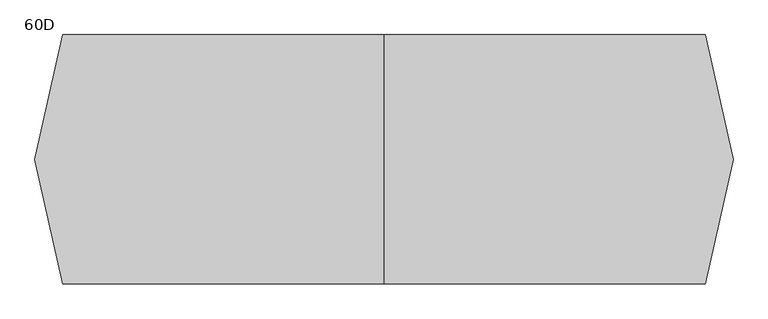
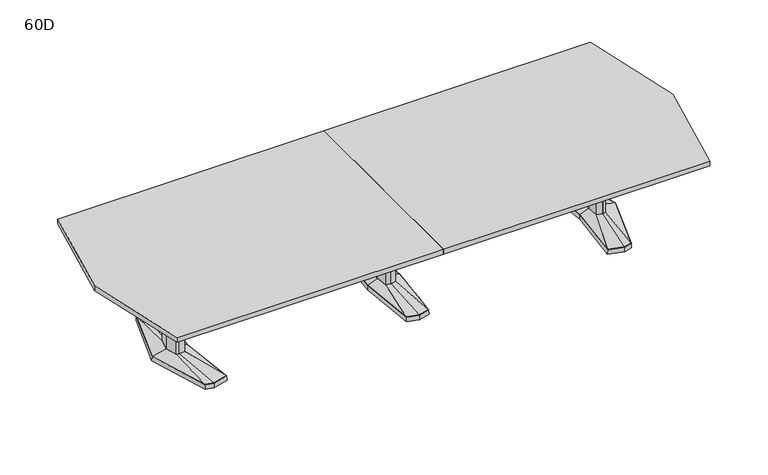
"""IFC4 building model written with IfcOpenShell, lengths in millimetres: furniture geometry, Coalesse_AM_Table_Conference_ETable2_Faceted_14ft_Aluminium Base : 60D."""

import ifcopenshell
import ifcopenshell.guid

model = None  # the IFC model being written
_history = None  # IfcOwnerHistory: only IFC2X3 demands one
_inside = {}  # id of a spatial element -> (the spatial element, [elements in it])
_under = {}  # id of a project, library or spatial element -> (it, [spatial elements below it])
_declared = {}  # id of a project -> (the project, [libraries it declares])
_typed = {}  # id of a type object -> (the type object, [elements of that type])
_made_of = {}  # id of a material, layer set ... -> (it, [elements and type objects made of it])


def new_model(schema):
    """Start an empty IFC model of exactly this schema.

    Asked for "IFC4X3", IfcOpenShell would pick the latest addendum, in which some entities
    have other attributes; the version numbers below select the first issue.
    IFC2X3 requires an IfcOwnerHistory on every rooted entity: one is made here for all.
    """
    global model, _history
    if schema == "IFC4X3":
        model = ifcopenshell.file(schema_version=(4, 3, 0, 0))
    else:
        model = ifcopenshell.file(schema=schema)
    _inside.clear()
    _under.clear()
    _declared.clear()
    _typed.clear()
    _made_of.clear()
    _history = None
    if model.schema == "IFC2X3":
        org = make("IfcOrganization", Name="unknown")
        user = make(
            "IfcPersonAndOrganization",
            ThePerson=make("IfcPerson", FamilyName="unknown"),
            TheOrganization=org,
        )
        app = make(
            "IfcApplication",
            ApplicationDeveloper=org,
            Version="unknown",
            ApplicationFullName="unknown",
            ApplicationIdentifier="unknown",
        )
        _history = make(
            "IfcOwnerHistory",
            OwningUser=user,
            OwningApplication=app,
            ChangeAction="ADDED",
            CreationDate=0,
        )
    return model


def make(cls, **values):
    """One entity of the class cls with the attributes given. An attribute that is None is left unset."""
    return model.create_entity(
        cls, **{name: value for name, value in values.items() if value is not None}
    )


def rooted(cls, **values):
    """An entity with a GlobalId (a new one), such as an element, a storey or a relation."""
    return make(cls, GlobalId=ifcopenshell.guid.new(), OwnerHistory=_history, **values)


def si_unit(unit_type, name, prefix=None):
    """IfcSIUnit, for example si_unit("LENGTHUNIT", "METRE", prefix="MILLI")."""
    return make("IfcSIUnit", UnitType=unit_type, Prefix=prefix, Name=name)


def assignment(units):
    """IfcUnitAssignment: the units of a project."""
    return None if units is None else make("IfcUnitAssignment", Units=units)


def point(xyz):
    """IfcCartesianPoint."""
    return None if xyz is None else make("IfcCartesianPoint", Coordinates=xyz)


def direction(xyz):
    """IfcDirection."""
    return None if xyz is None else make("IfcDirection", DirectionRatios=xyz)


def frame(location, z_axis=None, x_axis=None):
    """IfcAxis2Placement3D, a coordinate frame: its origin and axes. An axis left out is left unset."""
    return make(
        "IfcAxis2Placement3D",
        Location=point(location),
        Axis=direction(z_axis),
        RefDirection=direction(x_axis),
    )


def origin():
    """The frame at (0, 0, 0) with its axes left unset."""
    return frame((0.0, 0.0, 0.0))


def place(relative_to, where):
    """IfcLocalPlacement: puts the frame where relative to a parent placement (None: the world)."""
    return make(
        "IfcLocalPlacement", PlacementRelTo=relative_to, RelativePlacement=where
    )


def context(
    kind, dimensions, precision=None, world=None, true_north=None, identifier=None
):
    """IfcGeometricRepresentationContext, for example the 3D "Model" context."""
    return make(
        "IfcGeometricRepresentationContext",
        ContextIdentifier=identifier,
        ContextType=kind,
        CoordinateSpaceDimension=dimensions,
        Precision=precision,
        WorldCoordinateSystem=world,
        TrueNorth=true_north,
    )


def project(units=None, contexts=None):
    """IfcProject with its units and contexts."""
    return rooted(
        "IfcProject",
        Name="project",
        RepresentationContexts=contexts,
        UnitsInContext=assignment(units),
    )


def spatial(cls, under=None, at=None, **own):
    """A site, building, storey or space (cls), placed at a placement, below another one or the project."""
    s = rooted(cls, ObjectPlacement=at, **own)
    if under is not None:
        _under.setdefault(under.id(), (under, []))[1].append(s)
    return s


def polyline(points):
    """IfcPolyline through the points."""
    return make("IfcPolyline", Points=[point(p) for p in points])


def outline(outer, holes=None, kind="AREA"):
    """IfcArbitraryClosedProfileDef: a profile drawn as a closed curve; with holes, ...WithVoids."""
    if holes is None:
        return make("IfcArbitraryClosedProfileDef", ProfileType=kind, OuterCurve=outer)
    return make(
        "IfcArbitraryProfileDefWithVoids",
        ProfileType=kind,
        OuterCurve=outer,
        InnerCurves=holes,
    )


def extrude(swept, where, along, depth):
    """IfcExtrudedAreaSolid: the profile swept, set in the frame where, extruded along a direction by depth."""
    return make(
        "IfcExtrudedAreaSolid",
        SweptArea=swept,
        Position=where,
        ExtrudedDirection=direction(along),
        Depth=depth,
    )


def faces_of(points, faces, orient=None, outer=None):
    """IfcFace entities. A face is a list of loops; a loop is a list of indices into points, from 0.

    orient and outer hold one flag for each loop. By default every Orientation is true, the
    first loop of a face is its IfcFaceOuterBound and the others are IfcFaceBound.
    """
    made = []
    for i, loops in enumerate(faces):
        bounds = []
        for j, loop in enumerate(loops):
            is_outer = j == 0 if outer is None else outer[i][j]
            bounds.append(
                make(
                    "IfcFaceOuterBound" if is_outer else "IfcFaceBound",
                    Bound=make("IfcPolyLoop", Polygon=[points[k] for k in loop]),
                    Orientation=True if orient is None else orient[i][j],
                )
            )
        made.append(make("IfcFace", Bounds=bounds))
    return made


def faceted_brep(points, faces, orient=None, outer=None, voids=None):
    """IfcFacetedBrep: a solid bounded by flat faces; with voids (closed shells), ...WithVoids."""
    shared = [point(p) for p in points]
    hull = make("IfcClosedShell", CfsFaces=faces_of(shared, faces, orient, outer))
    if voids is None:
        return make("IfcFacetedBrep", Outer=hull)
    return make(
        "IfcFacetedBrepWithVoids",
        Outer=hull,
        Voids=[
            make(cls, CfsFaces=faces_of(shared, fs, o, b)) for cls, fs, o, b in voids
        ],
    )


def shape(context_of_items, identifier, shape_type, items):
    """IfcShapeRepresentation: the items that make up one representation, for example the "Body"."""
    return make(
        "IfcShapeRepresentation",
        ContextOfItems=context_of_items,
        RepresentationIdentifier=identifier,
        RepresentationType=shape_type,
        Items=items,
    )


def source(mapping_origin, context_of_items, identifier, shape_type, items):
    """IfcRepresentationMap: a shape defined once, which mapped items show again and again."""
    return make(
        "IfcRepresentationMap",
        MappingOrigin=mapping_origin,
        MappedRepresentation=shape(context_of_items, identifier, shape_type, items),
    )


def transform(
    local_origin,
    x_axis=None,
    y_axis=None,
    z_axis=None,
    scale=None,
    scale2=None,
    scale3=None,
    uniform=True,
):
    """IfcCartesianTransformationOperator3D, or its non-uniform kind. x_axis, y_axis, z_axis: its Axis1, 2, 3."""
    if uniform:
        return make(
            "IfcCartesianTransformationOperator3D",
            Axis1=direction(x_axis),
            Axis2=direction(y_axis),
            LocalOrigin=point(local_origin),
            Scale=scale,
            Axis3=direction(z_axis),
        )
    return make(
        "IfcCartesianTransformationOperator3DnonUniform",
        Axis1=direction(x_axis),
        Axis2=direction(y_axis),
        LocalOrigin=point(local_origin),
        Scale=scale,
        Axis3=direction(z_axis),
        Scale2=scale2,
        Scale3=scale3,
    )


def mapped(mapping_source, mapping_target):
    """IfcMappedItem: shows the shape of a source again, moved by a transform."""
    return make(
        "IfcMappedItem", MappingSource=mapping_source, MappingTarget=mapping_target
    )


def made_of(thing, what):
    """Note that an element or type object is made of a material, layer set ...; save() writes the relation."""
    if what is not None:
        _made_of.setdefault(what.id(), (what, []))[1].append(thing)
    return thing


def element(
    cls,
    number,
    at=None,
    inside=None,
    cuts=None,
    type_object=None,
    material=None,
    context=None,
    identifier="Body",
    shape_type=None,
    held_by="IfcProductDefinitionShape",
    body=None,
    shapes=None,
    **own,
):
    """One element of the class cls, such as IfcWall. Its Tag is "e" and its number.

    at: its placement. inside: the storey or other place that contains it. cuts: it is an
    opening in that element (IfcRelVoidsElement). A single representation is given by context,
    identifier, shape_type and body (its items); several are given by shapes. held_by: the class
    of the entity that holds the representations. save() writes the other relations.
    """
    e = rooted(cls, Tag="e%d" % number, ObjectPlacement=at, **own)
    if body is not None:
        shapes = [shape(context, identifier, shape_type, body)]
    if shapes is not None:
        e.Representation = make(held_by, Representations=shapes)
    if inside is not None:
        _inside.setdefault(inside.id(), (inside, []))[1].append(e)
    if cuts is not None:
        rooted(
            "IfcRelVoidsElement", RelatingBuildingElement=cuts, RelatedOpeningElement=e
        )
    if type_object is not None:
        _typed.setdefault(type_object.id(), (type_object, []))[1].append(e)
    return made_of(e, material)


def aggregate(whole, parts):
    """IfcRelAggregates: a whole, such as a stair, and the parts it consists of."""
    return rooted("IfcRelAggregates", RelatingObject=whole, RelatedObjects=parts)


def save(model, path):
    """Write the relations noted so far, then the file.

    IfcRelAggregates (storeys below a building ...), IfcRelContainedInSpatialStructure (elements
    in a storey), IfcRelDefinesByType, IfcRelAssociatesMaterial and IfcRelDeclares: one each for
    every whole, place, type object, material and project.
    """
    for whole, parts in _under.values():
        aggregate(whole, parts)
    for where, things in _inside.values():
        rooted(
            "IfcRelContainedInSpatialStructure",
            RelatedElements=things,
            RelatingStructure=where,
        )
    for kind, things in _typed.values():
        rooted("IfcRelDefinesByType", RelatedObjects=things, RelatingType=kind)
    for what, things in _made_of.values():
        rooted("IfcRelAssociatesMaterial", RelatedObjects=things, RelatingMaterial=what)
    for by, libraries in _declared.values():
        rooted("IfcRelDeclares", RelatingContext=by, RelatedDefinitions=libraries)
    model.write(path)


def plane_surface(at):
    """IfcPlane: the flat surface through the origin of the frame at, square to its z axis."""
    return make("IfcPlane", Position=at)


def spline_surface(u_degree, v_degree, points, u_multiplicities, v_multiplicities, u_knots, v_knots, weights=None):
    """IfcBSplineSurfaceWithKnots; with weights, IfcRationalBSplineSurfaceWithKnots. points: one row for each step in u."""
    own = dict(
        UDegree=u_degree,
        VDegree=v_degree,
        ControlPointsList=[[point(p) for p in row] for row in points],
        SurfaceForm="UNSPECIFIED",
        UClosed=False,
        VClosed=False,
        SelfIntersect=False,
        UMultiplicities=u_multiplicities,
        VMultiplicities=v_multiplicities,
        UKnots=u_knots,
        VKnots=v_knots,
        KnotSpec="UNSPECIFIED",
    )
    if weights is None:
        return make("IfcBSplineSurfaceWithKnots", **own)
    return make("IfcRationalBSplineSurfaceWithKnots", WeightsData=weights, **own)


def advanced_brep(points, edges, surfaces, faces):
    """IfcAdvancedBrep: a solid bounded by faces that lie on surfaces and meet in shared edges.

    An edge is (start, end): straight between two places in points (the first is 0);
    or (start, end, curve); or (start, end, curve, False) where it runs against its curve.
    A face is (place in surfaces, loops), or (place, loops, False) where it looks against
    its surface's normal. A loop lists edges by number (the first is 1), with a minus sign
    where the edge is run from its end to its start. The first loop is the outer one.
    """
    corners = [point(p) for p in points]
    vertices = [make("IfcVertexPoint", VertexGeometry=c) for c in corners]
    made = []
    for start, end, *more in edges:
        made.append(
            make(
                "IfcEdgeCurve",
                EdgeStart=vertices[start],
                EdgeEnd=vertices[end],
                EdgeGeometry=more[0] if more else make("IfcPolyline", Points=[corners[start], corners[end]]),
                SameSense=more[1] if len(more) > 1 else True,
            )
        )
    hull = []
    for where, loops, *sense in faces:
        bounds = []
        for j, loop in enumerate(loops):
            ring = [make("IfcOrientedEdge", EdgeElement=made[abs(k) - 1], Orientation=k > 0) for k in loop]
            bounds.append(
                make(
                    "IfcFaceOuterBound" if j == 0 else "IfcFaceBound",
                    Bound=make("IfcEdgeLoop", EdgeList=ring),
                    Orientation=True,
                )
            )
        hull.append(make("IfcAdvancedFace", Bounds=bounds, FaceSurface=surfaces[where], SameSense=sense[0] if sense else True))
    return make("IfcAdvancedBrep", Outer=make("IfcClosedShell", CfsFaces=hull))


def furniture_60d_3bc78be8(model_context):
    return source(origin(), model_context, "Body", "SolidModel", [
        faceted_brep([(1515.4306835, 455.5848221, 38.1), (1405.8531277, 426.2263816, 38.1), (1447.0163717, 0.0, 38.1), (1405.8531277, -426.2263816, 38.1), (1515.4306835, -455.5848221, 38.1), (1571.5570396, -440.5478297, 38.1), (1708.8684269, 0.0, 38.1), (1571.5570396, 440.5478297, 38.1), (1515.4306754, 457.2283104, 3.175), (1572.8124472, 441.8549756, 3.175), (1710.53125, 0.0, 3.175), (1572.8124472, -441.8549756, 3.175), (1515.4306754, -457.2283104, 3.175), (1404.14375, -427.4118891, 3.175), (1445.4214856, 0.0, 3.175), (1404.14375, 427.4118891, 3.175), (1519.020115, 428.3273875, 3.175), (1413.9718228, 402.1057253, 3.175), (1422.090518, 377.985069, 3.175), (1522.6095466, 401.0699529, 3.175), (1573.1691725, 387.524361, 3.175), (1572.3631061, 414.0360954, 3.175), (1519.020115, -428.3273875, 3.175), (1572.3631061, -414.0360954, 3.175), (1573.1691725, -387.524361, 3.175), (1522.6095466, -401.0699529, 3.175), (1422.090518, -377.985069, 3.175), (1413.9718228, -402.1057253, 3.175), (1645.6153621, 0.0, 3.175), (1613.3459611, 120.4193755, 3.175), (1564.6987222, 133.471665, 3.175), (1484.8180526, 119.4176561, 3.175), (1473.6868466, 0.0, 3.175), (1484.8180526, -119.4176561, 3.175), (1564.6987222, -133.471665, 3.175), (1613.3459611, -120.4193755, 3.175), (1519.020115, 428.3273875, 0.0), (1572.3631061, 414.0360954, 0.0), (1573.1691725, 387.524361, 0.0), (1522.6095466, 401.0699529, 0.0), (1422.090518, 377.985069, 0.0), (1413.9718228, 402.1057253, 0.0), (1519.020115, -428.3273875, 0.0), (1413.9718228, -402.1057253, 0.0), (1422.090518, -377.985069, 0.0), (1522.6095466, -401.0699529, 0.0), (1573.1691725, -387.524361, 0.0), (1572.3631061, -414.0360954, 0.0), (1645.6153621, 0.0, 0.0), (1613.3459611, -120.4193755, 0.0), (1564.6987222, -133.471665, 0.0), (1484.8180526, -119.4176561, 0.0), (1473.6868466, 0.0, 0.0), (1484.8180526, 119.4176561, 0.0), (1564.6987222, 133.471665, 0.0), (1613.3459611, 120.4193755, 0.0)], [[[0, 1, 2, 3, 4, 5, 6, 7]], [[8, 9, 10, 11, 12, 13, 14, 15], [16, 17, 18, 19, 20, 21], [22, 23, 24, 25, 26, 27], [28, 29, 30, 31, 32, 33, 34, 35]], [[7, 9, 8, 0]], [[6, 10, 9, 7]], [[5, 11, 10, 6]], [[4, 12, 11, 5]], [[3, 13, 12, 4]], [[2, 14, 13, 3]], [[1, 15, 14, 2]], [[0, 8, 15, 1]], [[36, 37, 38, 39, 40, 41]], [[42, 43, 44, 45, 46, 47]], [[48, 49, 50, 51, 52, 53, 54, 55]], [[36, 16, 21, 37]], [[37, 21, 20, 38]], [[38, 20, 19, 39]], [[39, 19, 18, 40]], [[40, 18, 17, 41]], [[41, 17, 16, 36]], [[42, 22, 27, 43]], [[43, 27, 26, 44]], [[44, 26, 25, 45]], [[45, 25, 24, 46]], [[46, 24, 23, 47]], [[47, 23, 22, 42]], [[48, 28, 35, 49]], [[49, 35, 34, 50]], [[50, 34, 33, 51]], [[51, 33, 32, 52]], [[52, 32, 31, 53]], [[53, 31, 30, 54]], [[54, 30, 29, 55]], [[55, 29, 28, 48]]]),
        faceted_brep([(1606.1710836, 0.0, 698.5), (1582.2358546, 89.3188359, 698.5), (1565.3824984, 93.8406728, 698.5), (1562.9826511, 94.4845635, 698.5), (1520.055146, 86.9320037, 698.5), (1511.9520056, 0.0, 698.5), (1520.055146, -86.9320037, 698.5), (1562.9826511, -94.4845635, 698.5), (1565.3824984, -93.8406728, 698.5), (1582.2358546, -89.3188359, 698.5), (1606.1710836, 0.0, 63.5), (1582.2358546, -89.3188359, 63.5), (1565.3824984, -93.8406728, 63.5), (1562.9826511, -94.4845635, 63.5), (1520.055146, -86.9320037, 63.5), (1511.9520056, 0.0, 63.5), (1520.055146, 86.9320037, 63.5), (1562.9826511, 94.4845635, 63.5), (1565.3824984, 93.8406728, 63.5), (1582.2358546, 89.3188359, 63.5)], [[[0, 1, 2, 3, 4, 5, 6, 7, 8, 9]], [[10, 11, 12, 13, 14, 15, 16, 17, 18, 19]], [[9, 11, 10, 0]], [[8, 12, 11, 9]], [[7, 13, 12, 8]], [[6, 14, 13, 7]], [[5, 15, 14, 6]], [[4, 16, 15, 5]], [[3, 17, 16, 4]], [[2, 18, 17, 3]], [[1, 19, 18, 2]], [[0, 10, 19, 1]]]),
        advanced_brep(
        [(1562.9826511, 94.4845635, 63.5), (1520.055146, 86.9320037, 63.5), (1511.9520056, 0.0, 63.5), (1520.055146, -86.9320037, 63.5), (1562.9826511, -94.4845635, 63.5), (1582.2358546, -89.3188359, 63.5), (1606.1710836, 0.0, 63.5), (1582.2358546, 89.3188359, 63.5), (1515.4306835, 455.5848221, 38.1), (1571.5570396, 440.5478297, 38.1), (1708.8684269, 0.0, 38.1), (1571.5570396, -440.5478297, 38.1), (1515.4306835, -455.5848221, 38.1), (1405.8531277, -426.2263816, 38.1), (1447.0163717, 0.0, 38.1), (1405.8531277, 426.2263816, 38.1)],
        [
            (0, 1),
            (1, 2),
            (2, 3),
            (3, 4),
            (4, 5),
            (5, 6),
            (6, 7),
            (7, 0),
            (8, 9),
            (9, 10),
            (10, 11),
            (11, 12),
            (12, 13),
            (13, 14),
            (14, 15),
            (15, 8),
            (8, 0),
            (7, 9),
            (6, 10),
            (5, 11),
            (4, 12),
            (3, 13),
            (2, 14),
            (1, 15),
        ],
        [
            plane_surface(frame((1556.0837991, 0.0, 63.5), z_axis=(0.0, 0.0, 1.0), x_axis=(-0.25884244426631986, -0.9659195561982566, 0.0))),
            plane_surface(frame((1517.6958125, 0.0, 38.1), z_axis=(0.0, 0.0, -1.0), x_axis=(-0.25884244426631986, -0.9659195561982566, 0.0))),
            spline_surface(1, 1, [[(1515.4306835, 455.5848221, 38.1), (1571.5570396, 440.5478297, 38.1)], [(1562.9826511, 94.4845635, 63.5), (1582.2358546, 89.3188359, 63.5)]], [2, 2], [2, 2], [0.0, 1.0], [0.0, 1.0]),
            spline_surface(1, 1, [[(1571.5570396, 440.5478297, 38.1), (1708.8684269, 0.0, 38.1)], [(1582.2358546, 89.3188359, 63.5), (1606.1710836, 0.0, 63.5)]], [2, 2], [2, 2], [0.0, 1.0], [0.0, 1.0]),
            spline_surface(1, 1, [[(1708.8684269, 0.0, 38.1), (1571.5570396, -440.5478297, 38.1)], [(1606.1710836, 0.0, 63.5), (1582.2358546, -89.3188359, 63.5)]], [2, 2], [2, 2], [0.0, 1.0], [0.0, 1.0]),
            spline_surface(1, 1, [[(1571.5570396, -440.5478297, 38.1), (1515.4306835, -455.5848221, 38.1)], [(1582.2358546, -89.3188359, 63.5), (1562.9826511, -94.4845635, 63.5)]], [2, 2], [2, 2], [0.0, 1.0], [0.0, 1.0]),
            spline_surface(1, 1, [[(1515.4306835, -455.5848221, 38.1), (1405.8531277, -426.2263816, 38.1)], [(1562.9826511, -94.4845635, 63.5), (1520.055146, -86.9320037, 63.5)]], [2, 2], [2, 2], [0.0, 1.0], [0.0, 1.0]),
            spline_surface(1, 1, [[(1405.8531277, -426.2263816, 38.1), (1447.0163717, 0.0, 38.1)], [(1520.055146, -86.9320037, 63.5), (1511.9520056, 0.0, 63.5)]], [2, 2], [2, 2], [0.0, 1.0], [0.0, 1.0]),
            spline_surface(1, 1, [[(1447.0163717, 0.0, 38.1), (1405.8531277, 426.2263816, 38.1)], [(1511.9520056, 0.0, 63.5), (1520.055146, 86.9320037, 63.5)]], [2, 2], [2, 2], [0.0, 1.0], [0.0, 1.0]),
            spline_surface(1, 1, [[(1405.8531277, 426.2263816, 38.1), (1515.4306835, 455.5848221, 38.1)], [(1520.055146, 86.9320037, 63.5), (1562.9826511, 94.4845635, 63.5)]], [2, 2], [2, 2], [0.0, 1.0], [0.0, 1.0]),
        ],
        [
            (0, [[1, 2, 3, 4, 5, 6, 7, 8]]),
            (1, [[9, 10, 11, 12, 13, 14, 15, 16]]),
            (2, [[17, -8, 18, -9]]),
            (3, [[-18, -7, 19, -10]]),
            (4, [[-19, -6, 20, -11]]),
            (5, [[-20, -5, 21, -12]]),
            (6, [[-21, -4, 22, -13]]),
            (7, [[-22, -3, 23, -14]]),
            (8, [[-23, -2, 24, -15]]),
            (9, [[-24, -1, -17, -16]]),
        ],
    ),
        faceted_brep([(-1515.4306835, 455.5848221, 38.1), (-1571.5570396, 440.5478297, 38.1), (-1708.8684269, 0.0, 38.1), (-1571.5570396, -440.5478297, 38.1), (-1515.4306835, -455.5848221, 38.1), (-1405.8531277, -426.2263816, 38.1), (-1447.0163717, 0.0, 38.1), (-1405.8531277, 426.2263816, 38.1), (-1515.4306754, 457.2283104, 3.175), (-1404.14375, 427.4118891, 3.175), (-1445.4214856, 0.0, 3.175), (-1404.14375, -427.4118891, 3.175), (-1515.4306754, -457.2283104, 3.175), (-1572.8124472, -441.8549756, 3.175), (-1710.53125, 0.0, 3.175), (-1572.8124472, 441.8549756, 3.175), (-1519.020115, 428.3273875, 3.175), (-1572.3631061, 414.0360954, 3.175), (-1573.1691725, 387.524361, 3.175), (-1522.6095466, 401.0699529, 3.175), (-1422.090518, 377.985069, 3.175), (-1413.9718228, 402.1057253, 3.175), (-1519.020115, -428.3273875, 3.175), (-1413.9718228, -402.1057253, 3.175), (-1422.090518, -377.985069, 3.175), (-1522.6095466, -401.0699529, 3.175), (-1573.1691725, -387.524361, 3.175), (-1572.3631061, -414.0360954, 3.175), (-1645.6153621, 0.0, 3.175), (-1613.3459611, -120.4193755, 3.175), (-1564.6987222, -133.471665, 3.175), (-1484.8180526, -119.4176561, 3.175), (-1473.6868466, 0.0, 3.175), (-1484.8180526, 119.4176561, 3.175), (-1564.6987222, 133.471665, 3.175), (-1613.3459611, 120.4193755, 3.175), (-1519.020115, 428.3273875, 0.0), (-1413.9718228, 402.1057253, 0.0), (-1422.090518, 377.985069, 0.0), (-1522.6095466, 401.0699529, 0.0), (-1573.1691725, 387.524361, 0.0), (-1572.3631061, 414.0360954, 0.0), (-1519.020115, -428.3273875, 0.0), (-1572.3631061, -414.0360954, 0.0), (-1573.1691725, -387.524361, 0.0), (-1522.6095466, -401.0699529, 0.0), (-1422.090518, -377.985069, 0.0), (-1413.9718228, -402.1057253, 0.0), (-1645.6153621, 0.0, 0.0), (-1613.3459611, 120.4193755, 0.0), (-1564.6987222, 133.471665, 0.0), (-1484.8180526, 119.4176561, 0.0), (-1473.6868466, 0.0, 0.0), (-1484.8180526, -119.4176561, 0.0), (-1564.6987222, -133.471665, 0.0), (-1613.3459611, -120.4193755, 0.0)], [[[0, 1, 2, 3, 4, 5, 6, 7]], [[8, 9, 10, 11, 12, 13, 14, 15], [16, 17, 18, 19, 20, 21], [22, 23, 24, 25, 26, 27], [28, 29, 30, 31, 32, 33, 34, 35]], [[1, 0, 8, 15]], [[2, 1, 15, 14]], [[3, 2, 14, 13]], [[4, 3, 13, 12]], [[5, 4, 12, 11]], [[6, 5, 11, 10]], [[7, 6, 10, 9]], [[0, 7, 9, 8]], [[36, 37, 38, 39, 40, 41]], [[42, 43, 44, 45, 46, 47]], [[48, 49, 50, 51, 52, 53, 54, 55]], [[36, 41, 17, 16]], [[41, 40, 18, 17]], [[40, 39, 19, 18]], [[39, 38, 20, 19]], [[38, 37, 21, 20]], [[37, 36, 16, 21]], [[42, 47, 23, 22]], [[47, 46, 24, 23]], [[46, 45, 25, 24]], [[45, 44, 26, 25]], [[44, 43, 27, 26]], [[43, 42, 22, 27]], [[48, 55, 29, 28]], [[55, 54, 30, 29]], [[54, 53, 31, 30]], [[53, 52, 32, 31]], [[52, 51, 33, 32]], [[51, 50, 34, 33]], [[50, 49, 35, 34]], [[49, 48, 28, 35]]]),
        faceted_brep([(-1606.1710836, 0.0, 698.5), (-1582.2358546, -89.3188359, 698.5), (-1565.3824984, -93.8406728, 698.5), (-1562.9826511, -94.4845635, 698.5), (-1520.055146, -86.9320037, 698.5), (-1511.9520056, 0.0, 698.5), (-1520.055146, 86.9320037, 698.5), (-1562.9826511, 94.4845635, 698.5), (-1565.3824984, 93.8406728, 698.5), (-1582.2358546, 89.3188359, 698.5), (-1606.1710836, 0.0, 63.5), (-1582.2358546, 89.3188359, 63.5), (-1565.3824984, 93.8406728, 63.5), (-1562.9826511, 94.4845635, 63.5), (-1520.055146, 86.9320037, 63.5), (-1511.9520056, 0.0, 63.5), (-1520.055146, -86.9320037, 63.5), (-1562.9826511, -94.4845635, 63.5), (-1565.3824984, -93.8406728, 63.5), (-1582.2358546, -89.3188359, 63.5)], [[[0, 1, 2, 3, 4, 5, 6, 7, 8, 9]], [[10, 11, 12, 13, 14, 15, 16, 17, 18, 19]], [[1, 0, 10, 19]], [[2, 1, 19, 18]], [[3, 2, 18, 17]], [[4, 3, 17, 16]], [[5, 4, 16, 15]], [[6, 5, 15, 14]], [[7, 6, 14, 13]], [[8, 7, 13, 12]], [[9, 8, 12, 11]], [[0, 9, 11, 10]]]),
        advanced_brep(
        [(-1562.9826511, 94.4845635, 63.5), (-1582.2358546, 89.3188359, 63.5), (-1606.1710836, 0.0, 63.5), (-1582.2358546, -89.3188359, 63.5), (-1562.9826511, -94.4845635, 63.5), (-1520.055146, -86.9320037, 63.5), (-1511.9520056, 0.0, 63.5), (-1520.055146, 86.9320037, 63.5), (-1515.4306835, 455.5848221, 38.1), (-1405.8531277, 426.2263816, 38.1), (-1447.0163717, 0.0, 38.1), (-1405.8531277, -426.2263816, 38.1), (-1515.4306835, -455.5848221, 38.1), (-1571.5570396, -440.5478297, 38.1), (-1708.8684269, 0.0, 38.1), (-1571.5570396, 440.5478297, 38.1)],
        [
            (0, 1),
            (1, 2),
            (2, 3),
            (3, 4),
            (4, 5),
            (5, 6),
            (6, 7),
            (7, 0),
            (8, 9),
            (9, 10),
            (10, 11),
            (11, 12),
            (12, 13),
            (13, 14),
            (14, 15),
            (15, 8),
            (15, 1),
            (0, 8),
            (14, 2),
            (13, 3),
            (12, 4),
            (11, 5),
            (10, 6),
            (9, 7),
        ],
        [
            plane_surface(frame((-1556.0837991, 0.0, 63.5), z_axis=(0.0, 0.0, 1.0), x_axis=(0.25884244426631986, -0.9659195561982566, 0.0))),
            plane_surface(frame((-1517.6958125, 0.0, 38.1), z_axis=(0.0, 0.0, -1.0), x_axis=(0.25884244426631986, -0.9659195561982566, 0.0))),
            spline_surface(1, 1, [[(-1515.4306835, 455.5848221, 38.1), (-1562.9826511, 94.4845635, 63.5)], [(-1571.5570396, 440.5478297, 38.1), (-1582.2358546, 89.3188359, 63.5)]], [2, 2], [2, 2], [0.0, 1.0], [0.0, 1.0]),
            spline_surface(1, 1, [[(-1571.5570396, 440.5478297, 38.1), (-1582.2358546, 89.3188359, 63.5)], [(-1708.8684269, 0.0, 38.1), (-1606.1710836, 0.0, 63.5)]], [2, 2], [2, 2], [0.0, 1.0], [0.0, 1.0]),
            spline_surface(1, 1, [[(-1708.8684269, 0.0, 38.1), (-1606.1710836, 0.0, 63.5)], [(-1571.5570396, -440.5478297, 38.1), (-1582.2358546, -89.3188359, 63.5)]], [2, 2], [2, 2], [0.0, 1.0], [0.0, 1.0]),
            spline_surface(1, 1, [[(-1571.5570396, -440.5478297, 38.1), (-1582.2358546, -89.3188359, 63.5)], [(-1515.4306835, -455.5848221, 38.1), (-1562.9826511, -94.4845635, 63.5)]], [2, 2], [2, 2], [0.0, 1.0], [0.0, 1.0]),
            spline_surface(1, 1, [[(-1515.4306835, -455.5848221, 38.1), (-1562.9826511, -94.4845635, 63.5)], [(-1405.8531277, -426.2263816, 38.1), (-1520.055146, -86.9320037, 63.5)]], [2, 2], [2, 2], [0.0, 1.0], [0.0, 1.0]),
            spline_surface(1, 1, [[(-1405.8531277, -426.2263816, 38.1), (-1520.055146, -86.9320037, 63.5)], [(-1447.0163717, 0.0, 38.1), (-1511.9520056, 0.0, 63.5)]], [2, 2], [2, 2], [0.0, 1.0], [0.0, 1.0]),
            spline_surface(1, 1, [[(-1447.0163717, 0.0, 38.1), (-1511.9520056, 0.0, 63.5)], [(-1405.8531277, 426.2263816, 38.1), (-1520.055146, 86.9320037, 63.5)]], [2, 2], [2, 2], [0.0, 1.0], [0.0, 1.0]),
            spline_surface(1, 1, [[(-1405.8531277, 426.2263816, 38.1), (-1520.055146, 86.9320037, 63.5)], [(-1515.4306835, 455.5848221, 38.1), (-1562.9826511, 94.4845635, 63.5)]], [2, 2], [2, 2], [0.0, 1.0], [0.0, 1.0]),
        ],
        [
            (0, [[1, 2, 3, 4, 5, 6, 7, 8]]),
            (1, [[9, 10, 11, 12, 13, 14, 15, 16]]),
            (2, [[-16, 17, -1, 18]]),
            (3, [[-15, 19, -2, -17]]),
            (4, [[-14, 20, -3, -19]]),
            (5, [[-13, 21, -4, -20]]),
            (6, [[-12, 22, -5, -21]]),
            (7, [[-11, 23, -6, -22]]),
            (8, [[-10, 24, -7, -23]]),
            (9, [[-9, -18, -8, -24]]),
        ],
    ),
        faceted_brep([(-81.2333791, -433.8053819, 38.1), (0.0, -455.556576, 38.1), (81.2333791, -433.8053819, 38.1), (119.0564774, 0.0, 38.1), (81.2333791, 433.8053819, 38.1), (0.0, 455.556576, 38.1), (-81.2333791, 433.8053819, 38.1), (-119.0564774, 0.0, 38.1), (-82.7182795, -435.0512063, 3.175), (-120.65, 0.0, 3.175), (-82.7182795, 435.0512063, 3.175), (0.0, 457.2, 3.175), (82.7182795, 435.0512063, 3.175), (120.65, 0.0, 3.175), (82.7182795, -435.0512063, 3.175), (0.0, -457.2, 3.175), (0.0, 429.2617927, 3.175), (-77.9676806, 408.3850278, 3.175), (-74.7019821, 382.9646737, 3.175), (0.0, 402.9670094, 3.175), (74.7019821, 382.9646737, 3.175), (77.9676806, 408.3850278, 3.175), (0.0, -429.2617927, 3.175), (77.9676806, -408.3850278, 3.175), (74.7019821, -382.9646737, 3.175), (0.0, -402.9670094, 3.175), (-74.7019821, -382.9646737, 3.175), (-77.9676806, -408.3850278, 3.175), (-71.8574262, 114.6326257, 3.175), (-82.5426076, 0.0, 3.175), (-71.8574262, -114.6326257, 3.175), (0.0, -133.8761372, 3.175), (71.8574262, -114.6326257, 3.175), (82.5426076, 0.0, 3.175), (71.8574262, 114.6326257, 3.175), (0.0, 133.8761372, 3.175), (0.0, 429.2617927, 0.0), (77.9676806, 408.3850278, 0.0), (74.7019821, 382.9646737, 0.0), (0.0, 402.9670094, 0.0), (-74.7019821, 382.9646737, 0.0), (-77.9676806, 408.3850278, 0.0), (0.0, -429.2617927, 0.0), (-77.9676806, -408.3850278, 0.0), (-74.7019821, -382.9646737, 0.0), (0.0, -402.9670094, 0.0), (74.7019821, -382.9646737, 0.0), (77.9676806, -408.3850278, 0.0), (-71.8574262, 114.6326257, 0.0), (0.0, 133.8761372, 0.0), (71.8574262, 114.6326257, 0.0), (82.5426076, 0.0, 0.0), (71.8574262, -114.6326257, 0.0), (0.0, -133.8761372, 0.0), (-71.8574262, -114.6326257, 0.0), (-82.5426076, 0.0, 0.0)], [[[0, 1, 2, 3, 4, 5, 6, 7]], [[8, 9, 10, 11, 12, 13, 14, 15], [16, 17, 18, 19, 20, 21], [22, 23, 24, 25, 26, 27], [28, 29, 30, 31, 32, 33, 34, 35]], [[1, 0, 8, 15]], [[2, 1, 15, 14]], [[3, 2, 14, 13]], [[4, 3, 13, 12]], [[5, 4, 12, 11]], [[6, 5, 11, 10]], [[7, 6, 10, 9]], [[0, 7, 9, 8]], [[36, 37, 38, 39, 40, 41]], [[42, 43, 44, 45, 46, 47]], [[48, 49, 50, 51, 52, 53, 54, 55]], [[36, 41, 17, 16]], [[41, 40, 18, 17]], [[40, 39, 19, 18]], [[39, 38, 20, 19]], [[38, 37, 21, 20]], [[37, 36, 16, 21]], [[42, 47, 23, 22]], [[47, 46, 24, 23]], [[46, 45, 25, 24]], [[45, 44, 26, 25]], [[44, 43, 27, 26]], [[43, 42, 22, 27]], [[48, 55, 29, 28]], [[55, 54, 30, 29]], [[54, 53, 31, 30]], [[53, 52, 32, 31]], [[52, 51, 33, 32]], [[51, 50, 34, 33]], [[50, 49, 35, 34]], [[49, 48, 28, 35]]]),
        faceted_brep([(-36.3832834, 84.6900825, 698.5), (-44.2774487, 0.0, 698.5), (-36.3832834, -84.6900825, 698.5), (0.0, -94.4335728, 698.5), (36.3832834, -84.6900825, 698.5), (44.2774487, 0.0, 698.5), (36.3832834, 84.6900825, 698.5), (0.0, 94.4335728, 698.5), (-36.3832834, 84.6900825, 63.5), (0.0, 94.4335728, 63.5), (36.3832834, 84.6900825, 63.5), (44.2774487, 0.0, 63.5), (36.3832834, -84.6900825, 63.5), (0.0, -94.4335728, 63.5), (-36.3832834, -84.6900825, 63.5), (-44.2774487, 0.0, 63.5)], [[[0, 1, 2, 3, 4, 5, 6, 7]], [[8, 9, 10, 11, 12, 13, 14, 15]], [[1, 0, 8, 15]], [[2, 1, 15, 14]], [[3, 2, 14, 13]], [[4, 3, 13, 12]], [[5, 4, 12, 11]], [[6, 5, 11, 10]], [[7, 6, 10, 9]], [[0, 7, 9, 8]]]),
        advanced_brep(
        [(-36.3832834, 84.6900825, 63.5), (-44.2774487, 0.0, 63.5), (-36.3832834, -84.6900825, 63.5), (0.0, -94.4335728, 63.5), (36.3832834, -84.6900825, 63.5), (44.2774487, 0.0, 63.5), (36.3832834, 84.6900825, 63.5), (0.0, 94.4335728, 63.5), (-81.2333791, 433.8053819, 38.1), (0.0, 455.556576, 38.1), (81.2333791, 433.8053819, 38.1), (119.0564774, 0.0, 38.1), (81.2333791, -433.8053819, 38.1), (0.0, -455.556576, 38.1), (-81.2333791, -433.8053819, 38.1), (-119.0564774, 0.0, 38.1)],
        [
            (0, 1),
            (1, 2),
            (2, 3),
            (3, 4),
            (4, 5),
            (5, 6),
            (6, 7),
            (7, 0),
            (8, 9),
            (9, 10),
            (10, 11),
            (11, 12),
            (12, 13),
            (13, 14),
            (14, 15),
            (15, 8),
            (15, 1),
            (0, 8),
            (14, 2),
            (13, 3),
            (12, 4),
            (11, 5),
            (10, 6),
            (9, 7),
        ],
        [
            plane_surface(frame((0.0, 0.0, 63.5), z_axis=(0.0, 0.0, 1.0000000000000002), x_axis=(-0.9659615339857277, -0.25868574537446, 0.0))),
            plane_surface(frame((0.0, 0.0, 38.1), z_axis=(0.0, 0.0, -1.0000000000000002), x_axis=(-0.9659615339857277, -0.25868574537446, 0.0))),
            spline_surface(1, 1, [[(-81.2333791, 433.8053819, 38.1), (-36.3832834, 84.6900825, 63.5)], [(-119.0564774, 0.0, 38.1), (-44.2774487, 0.0, 63.5)]], [2, 2], [2, 2], [0.0, 1.0], [0.0, 1.0]),
            spline_surface(1, 1, [[(-119.0564774, 0.0, 38.1), (-44.2774487, 0.0, 63.5)], [(-81.2333791, -433.8053819, 38.1), (-36.3832834, -84.6900825, 63.5)]], [2, 2], [2, 2], [0.0, 1.0], [0.0, 1.0]),
            spline_surface(1, 1, [[(-81.2333791, -433.8053819, 38.1), (-36.3832834, -84.6900825, 63.5)], [(0.0, -455.556576, 38.1), (0.0, -94.4335728, 63.5)]], [2, 2], [2, 2], [0.0, 1.0], [0.0, 1.0]),
            spline_surface(1, 1, [[(0.0, -455.556576, 38.1), (0.0, -94.4335728, 63.5)], [(81.2333791, -433.8053819, 38.1), (36.3832834, -84.6900825, 63.5)]], [2, 2], [2, 2], [0.0, 1.0], [0.0, 1.0]),
            spline_surface(1, 1, [[(81.2333791, -433.8053819, 38.1), (36.3832834, -84.6900825, 63.5)], [(119.0564774, 0.0, 38.1), (44.2774487, 0.0, 63.5)]], [2, 2], [2, 2], [0.0, 1.0], [0.0, 1.0]),
            spline_surface(1, 1, [[(119.0564774, 0.0, 38.1), (44.2774487, 0.0, 63.5)], [(81.2333791, 433.8053819, 38.1), (36.3832834, 84.6900825, 63.5)]], [2, 2], [2, 2], [0.0, 1.0], [0.0, 1.0]),
            spline_surface(1, 1, [[(81.2333791, 433.8053819, 38.1), (36.3832834, 84.6900825, 63.5)], [(0.0, 455.556576, 38.1), (0.0, 94.4335728, 63.5)]], [2, 2], [2, 2], [0.0, 1.0], [0.0, 1.0]),
            spline_surface(1, 1, [[(0.0, 455.556576, 38.1), (0.0, 94.4335728, 63.5)], [(-81.2333791, 433.8053819, 38.1), (-36.3832834, 84.6900825, 63.5)]], [2, 2], [2, 2], [0.0, 1.0], [0.0, 1.0]),
        ],
        [
            (0, [[1, 2, 3, 4, 5, 6, 7, 8]]),
            (1, [[9, 10, 11, 12, 13, 14, 15, 16]]),
            (2, [[-16, 17, -1, 18]]),
            (3, [[-15, 19, -2, -17]]),
            (4, [[-14, 20, -3, -19]]),
            (5, [[-13, 21, -4, -20]]),
            (6, [[-12, 22, -5, -21]]),
            (7, [[-11, 23, -6, -22]]),
            (8, [[-10, 24, -7, -23]]),
            (9, [[-9, -18, -8, -24]]),
        ],
    ),
        extrude(outline(polyline([(96.8375, 698.5), (103.1875, 698.5), (103.1875, 476.25), (-103.1875, 476.25), (-103.1875, 698.5), (-96.8375, 698.5), (-96.8375, 482.6), (96.8375, 482.6), (96.8375, 698.5)])), frame((44.2774487, 0.0, 0.0), z_axis=(1.0, 0.0, 0.0), x_axis=(0.0, 1.0, 0.0)), (0.0, 0.0, 1.0), 1467.8163013),
        extrude(outline(polyline([(1964.6677242, 762.0), (2133.6, 0.0), (1964.6677242, -762.0), (0.0, -762.0), (0.0, 762.0), (1964.6677242, 762.0)])), frame((0.0, 0.0, 698.5), z_axis=(0.0, 0.0, 1.0), x_axis=(1.0, 0.0, 0.0)), (0.0, 0.0, 1.0), 38.1),
        extrude(outline(polyline([(0.0, 762.0), (0.0, -762.0), (-1964.6677242, -762.0), (-2133.6, 0.0), (-1964.6677242, 762.0), (0.0, 762.0)])), frame((0.0, 0.0, 698.5), z_axis=(0.0, 0.0, 1.0), x_axis=(1.0, 0.0, 0.0)), (0.0, 0.0, 1.0), 38.1),
        extrude(outline(polyline([(96.8375, 698.5), (103.1875, 698.5), (103.1875, 476.25), (-103.1875, 476.25), (-103.1875, 698.5), (-96.8375, 698.5), (-96.8375, 482.6), (96.8375, 482.6), (96.8375, 698.5)])), frame((-1512.09375, 0.0, 0.0), z_axis=(1.0, 0.0, 0.0), x_axis=(0.0, 1.0, 0.0)), (0.0, 0.0, 1.0), 1467.8163013),
    ])


if __name__ == "__main__":
    model = new_model("IFC4")
    model_context = context("Model", 3, world=origin())
    ifc_project = project(units=[si_unit("LENGTHUNIT", "METRE", prefix="MILLI")], contexts=[model_context])
    site = spatial("IfcSite", under=ifc_project)
    building = spatial("IfcBuilding", under=site)
    placement = place(None, origin())
    furniture_60d_shape = furniture_60d_3bc78be8(model_context)
    element("IfcFurniture", 1, ObjectType="Coalesse_AM_Table_Conference_ETable2_Faceted_14ft_Aluminium Base : 60D", at=placement, inside=building, context=model_context, shape_type="MappedRepresentation", body=[
        mapped(furniture_60d_shape, transform((0.0, 0.0, 0.0), x_axis=(1.0, 0.0, 0.0), y_axis=(0.0, 1.0, 0.0), z_axis=(0.0, 0.0, 1.0))),
    ])
    save(model, "model.ifc")
